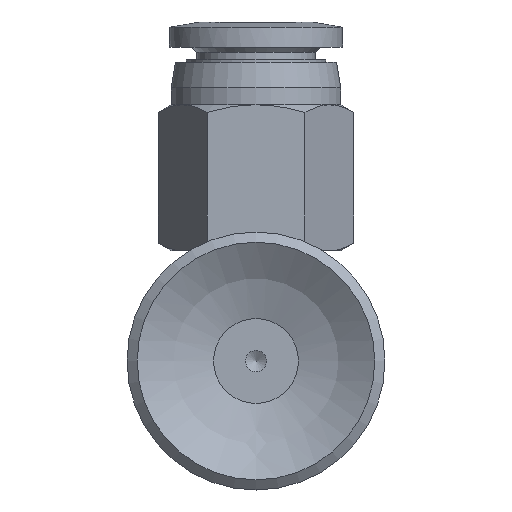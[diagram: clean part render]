
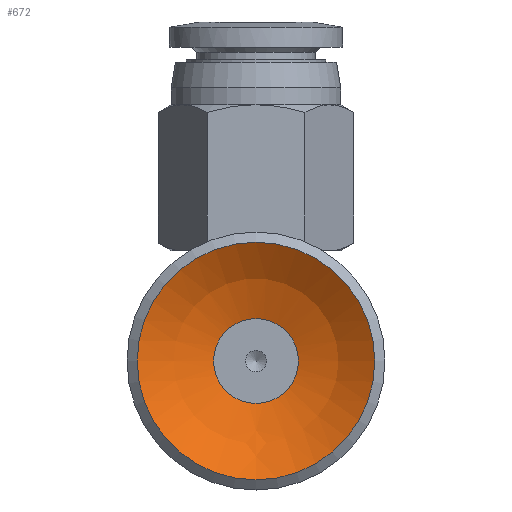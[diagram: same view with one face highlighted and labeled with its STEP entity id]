
A CAD part, front view. The second image highlights one B-rep face of the part: STEP entity #672.
In plain terms, the highlighted spherical face has radius 11.5 mm.
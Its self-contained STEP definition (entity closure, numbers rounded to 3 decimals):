
#672=ADVANCED_FACE('',(#1171,#1172),#1173,.F.);
#1171=FACE_OUTER_BOUND('',#1831,.T.);
#1172=FACE_OUTER_BOUND('',#1832,.T.);
#1173=SPHERICAL_SURFACE('',#1833,11.5);
#1831=EDGE_LOOP('',(#3449));
#1832=EDGE_LOOP('',(#3450));
#1833=AXIS2_PLACEMENT_3D('',#3451,#3452,#3453);
#3449=ORIENTED_EDGE('',*,*,#4570,.T.);
#3450=ORIENTED_EDGE('',*,*,#4541,.F.);
#3451=CARTESIAN_POINT('',(0.001,9.494,-22.735));
#3452=DIRECTION('',(0.0,0.,-1.0));
#3453=DIRECTION('',(1.0,0.0,0.0));
#4541=EDGE_CURVE('',#5324,#5324,#5325,.T.);
#4570=EDGE_CURVE('',#5377,#5377,#5378,.T.);
#5324=VERTEX_POINT('',#7311);
#5325=CIRCLE('',#7312,2.5);
#5377=VERTEX_POINT('',#7364);
#5378=CIRCLE('',#7365,7.0);
#7311=CARTESIAN_POINT('',(0.001,11.994,-11.51));
#7312=AXIS2_PLACEMENT_3D('',#8429,#8430,#8431);
#7364=CARTESIAN_POINT('',(0.001,16.494,-13.611));
#7365=AXIS2_PLACEMENT_3D('',#8516,#8517,#8518);
#8429=CARTESIAN_POINT('',(0.001,9.494,-11.51));
#8430=DIRECTION('',(0.0,0.,-1.0));
#8431=DIRECTION('',(0.0,1.0,0.));
#8516=CARTESIAN_POINT('',(0.001,9.494,-13.611));
#8517=DIRECTION('',(0.0,0.,-1.0));
#8518=DIRECTION('',(0.0,1.0,0.));
